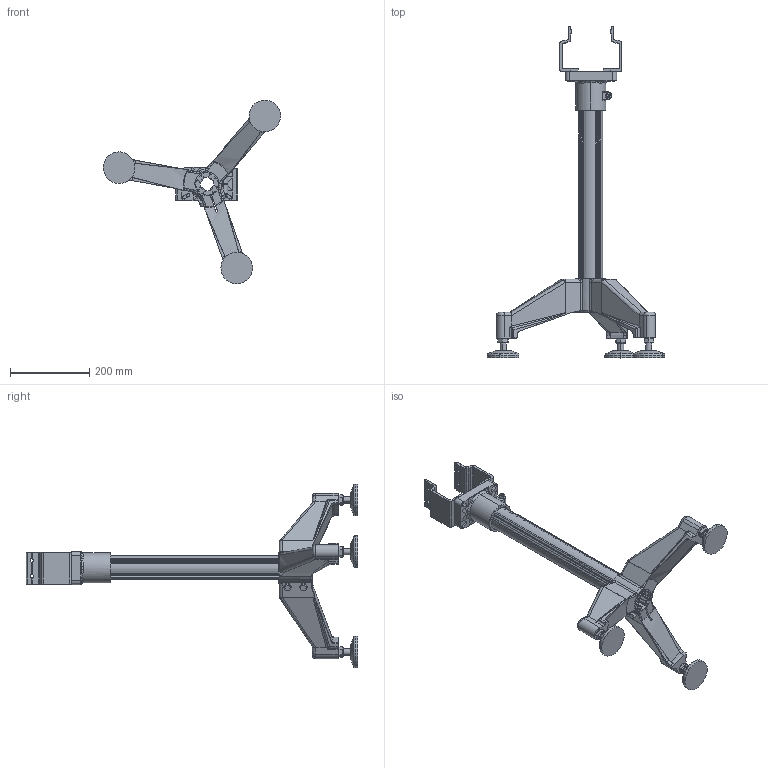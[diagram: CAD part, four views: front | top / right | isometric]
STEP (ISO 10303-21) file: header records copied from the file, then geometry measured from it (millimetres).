
FILE_DESCRIPTION (( 'STEP AP203' ), '1' );
FILE_NAME ('TRIPODE STANDARD FC105.STEP', '2007-12-12T10:16:39', ( ' ' ), ( ' ' ), 'SwSTEP 2.0', 'SolidWorks 2008', '' );
FILE_SCHEMA (( 'CONFIG_CONTROL_DESIGN' ));
Length unit declared in the file: millimetre
Products named in the file (6): TRIPODE STANDARD FC105; 331-4.tête d ''appui_Défaut; 331-80.Verin_Défaut; ___TUA60-4R.tube alu long600_Défaut; FAHBS-80.support alu type A; 331-3.pied tripode_Défaut
Assembly tree (8 placements, depth 2):
  TRIPODE STANDARD FC105
    331-80.Verin_Défaut  x3
    331-4.tête d ''appui_Défaut
    331-3.pied tripode_Défaut
    FAHBS-80.support alu type A  x2
    ___TUA60-4R.tube alu long600_Défaut
Bounding box: 448.08 x 838.5 x 464.07 mm (x, y, z)
Volume: 3273638.8 mm3; surface area: 733745.5 mm2
Topology: 8 solids, 8 shells, 744 faces, 1923 edges, 1200 vertices
Faces by surface type: plane 309, cylinder 290, torus 59, bspline 58, cone 22, sphere 6
Entity records: 23139 total; most frequent: CARTESIAN_POINT 7794, ORIENTED_EDGE 3218, DIRECTION 2929, EDGE_CURVE 1609, AXIS2_PLACEMENT_3D 1045, VERTEX_POINT 1012, LINE 839, VECTOR 839
